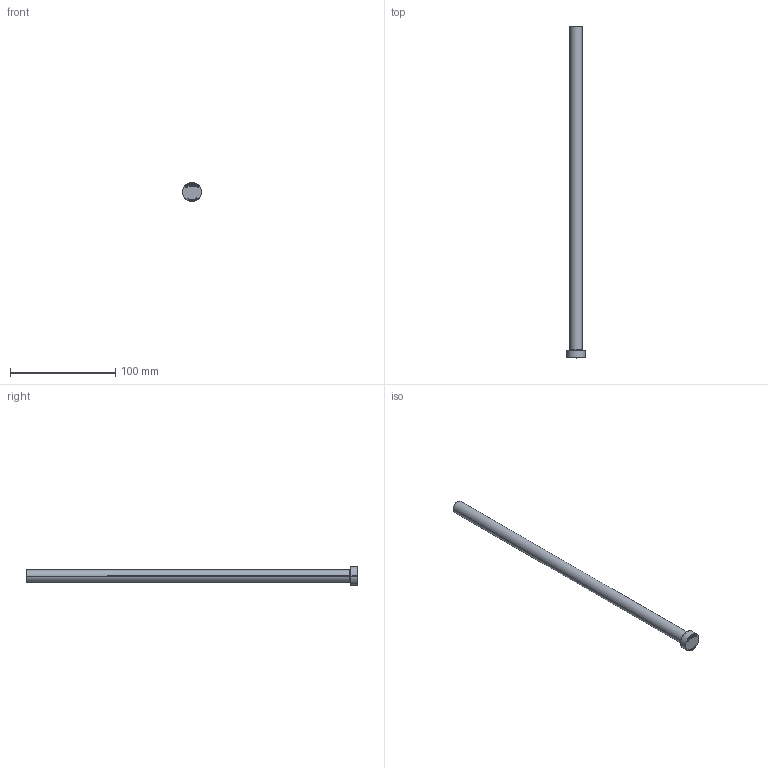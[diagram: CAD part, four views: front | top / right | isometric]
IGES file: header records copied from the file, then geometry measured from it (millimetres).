
Start section: SolidWorks IGES file using analytic representation for surfaces
Global section: file name: C:\Users\User\Downloads\Matripeça 31-08 tar\PB - PINO EXTRATOR TIPO _B_ (CATÁLOGO)\PB12,0\PB12,0315.IGS; native system: SolidWorks 2024; preprocessor: SolidWorks 2024; author: User; date: 260901.154115; units: millimetre
Bounding box: 18 x 315 x 18 mm (x, y, z)
Surface area: 12517.3 mm2 (no closed solid volume)
Topology: 0 solids, 0 shells, 401 faces, 3980 edges, 3980 vertices
Faces by surface type: bspline 387, revolution 14
